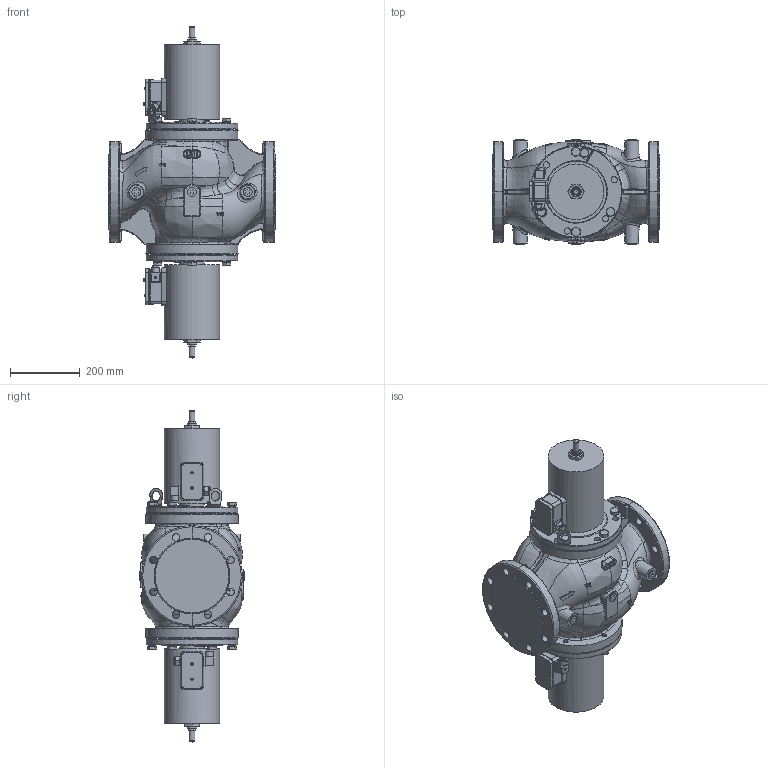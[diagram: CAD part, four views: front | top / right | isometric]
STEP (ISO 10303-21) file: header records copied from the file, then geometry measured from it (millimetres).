
FILE_DESCRIPTION((''),'2;1');
FILE_NAME('G:\CAD-Download\VX\VX 150\VX 150.stp','2010-09-08T12:51:03',('da'),(''),'Autodesk Inventor 2008','Autodesk Inventor 2008','');
FILE_SCHEMA(('AUTOMOTIVE_DESIGN { 1 0 10303 214 1 1 1 1 }'));
Length unit declared in the file: millimetre
Products named in the file (1): Bauteil4
Bounding box: 480 x 302 x 953.81 mm (x, y, z)
Volume: 40263168.7 mm3; surface area: 1399789 mm2
Topology: 1 solids, 1 shells, 2323 faces, 5832 edges, 3703 vertices
Faces by surface type: plane 980, bspline 743, cylinder 284, cone 220, torus 82, sphere 14
Full cylindrical faces by diameter (mm): 3.5 x2, 3.6 x2, 4.11 x8, 5.5 x2, 6 x4, 6.4 x2, 6.9 x2, 7.4 x2, 7.6 x2, 8 x2, 12 x2, 13.835 x6, 14 x2, 16 x24, 17 x2, 20 x2, 21.5 x2, 22 x8, 22.49 x11, 23.713 x2, 26 x6, 28 x2, 70 x2, 160 x2, 194.8 x2, 263 x2, 265 x1
Entity records: 223075 total; most frequent: CARTESIAN_POINT 172483, ORIENTED_EDGE 11074, DIRECTION 8164, EDGE_CURVE 5537, VERTEX_POINT 3620, AXIS2_PLACEMENT_3D 2917, EDGE_LOOP 2817, VECTOR 2330
